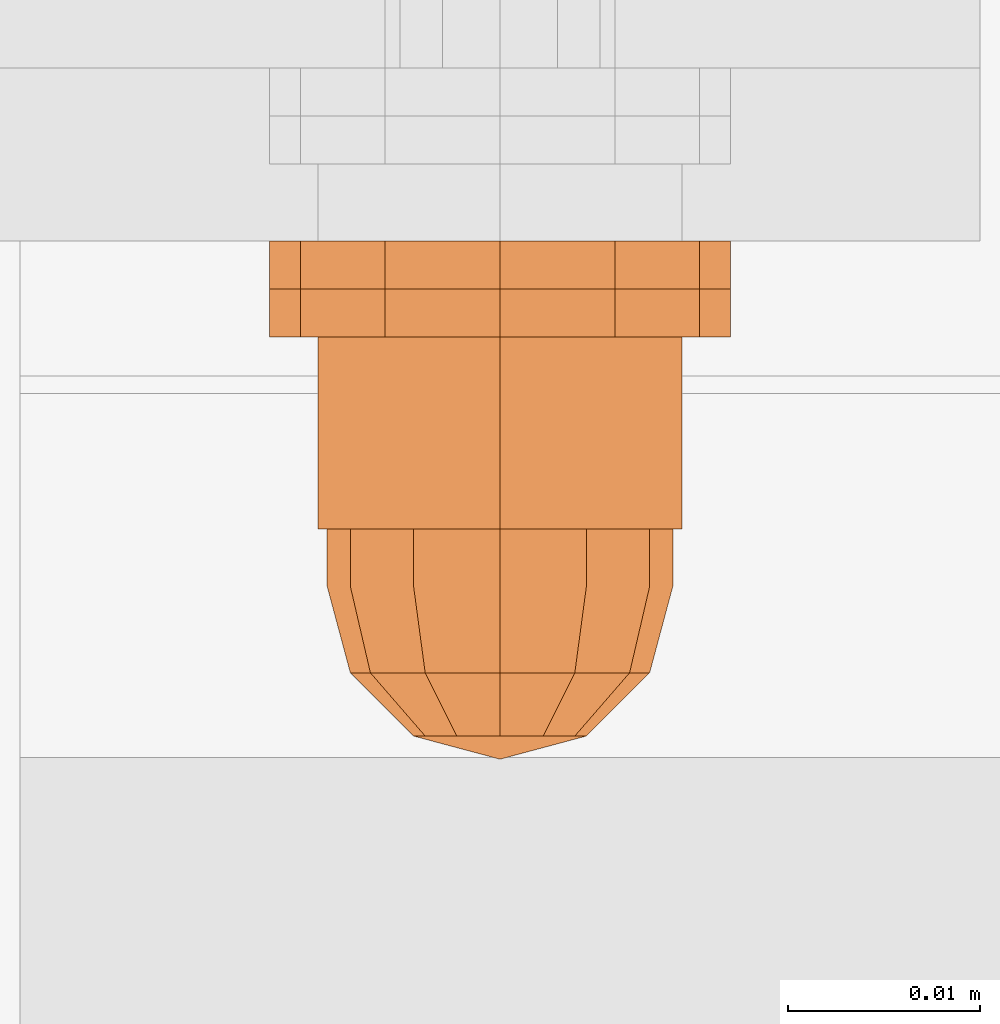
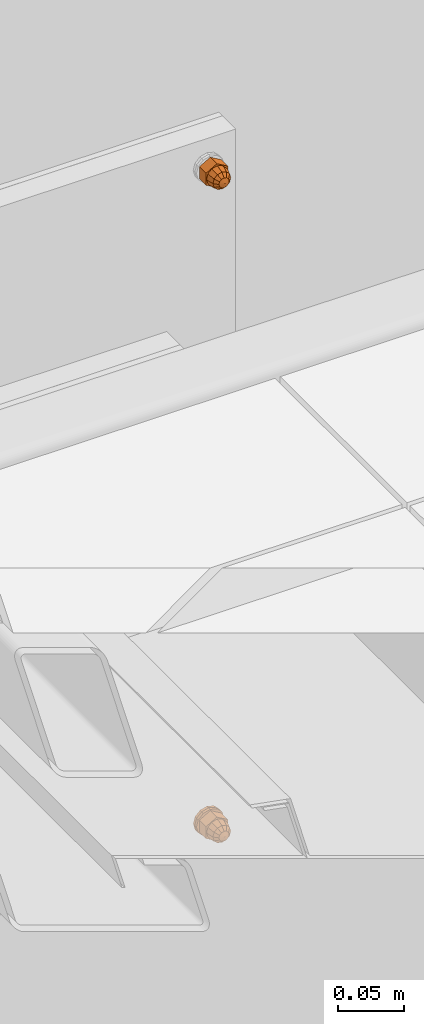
# One storey, part 143 of 162: 4 proxies.
"""IFC2X3 building model written with IfcOpenShell, lengths in millimetres."""

from ifc_helpers import new_model, entity, si_unit, converted_unit, origin_with_axes, place, context, project, spatial, faceted_brep, material, element, save


model = new_model("IFC2X3")

# Units and contexts
model_context = context("Model", 3, precision=1e-09, world=origin_with_axes())
ifc_project = project(units=[si_unit("LENGTHUNIT", "METRE", prefix="MILLI"), si_unit("AREAUNIT", "SQUARE_METRE"), si_unit("VOLUMEUNIT", "CUBIC_METRE"), converted_unit("PLANEANGLEUNIT", "DEGREE", entity("IfcPlaneAngleMeasure", 0.01745329), si_unit("PLANEANGLEUNIT", "RADIAN"), dimensions=[0, 0, 0, 0, 0, 0, 0])], contexts=[model_context])

# Site, building, storey
site_placement = place(None, origin_with_axes())
site = spatial("IfcSite", under=ifc_project, at=site_placement, Name="Hermannstra?e 1a, 60318 Frankfurt", CompositionType="ELEMENT")
building_placement = place(site_placement, origin_with_axes())
building = spatial("IfcBuilding", under=site, at=building_placement, Name="Struktur 1", CompositionType="ELEMENT")
storey_placement = place(building_placement, origin_with_axes())
storey = spatial("IfcBuildingStorey", under=building, at=storey_placement, Name="Default Storey", CompositionType="ELEMENT", Elevation=0.0)

# Proxies
ifc_material_1 = material(Name="A4")
proxy_1_placement = place(None, origin_with_axes())
element("IfcBuildingElementProxy", 1, at=proxy_1_placement, inside=storey, material=ifc_material_1, ObjectType="-", context=model_context, shape_type="Brep", body=[
    faceted_brep([(2934.310071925, 2705.610081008, 4080.0), (2934.310071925, 2695.610081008, 4080.0), (2933.506224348, 2695.610081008, 4083.0), (2933.506224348, 2705.610081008, 4083.0), (2931.310071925, 2695.610081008, 4085.196152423), (2931.310071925, 2705.610081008, 4085.196152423), (2933.506224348, 2705.610081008, 4077.0), (2933.506224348, 2695.610081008, 4077.0), (2937.789941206, 2705.610081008, 4074.526794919), (2928.310071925, 2705.610081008, 4069.053589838), (2918.830202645, 2705.610081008, 4074.526794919), (2918.830202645, 2705.610081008, 4085.473205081), (2928.310071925, 2705.610081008, 4090.946410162), (2937.789941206, 2705.610081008, 4085.473205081), (2931.310071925, 2705.610081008, 4074.803847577), (2928.310071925, 2705.610081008, 4086.0), (2925.310071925, 2705.610081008, 4085.196152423), (2923.113919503, 2705.610081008, 4083.0), (2922.310071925, 2705.610081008, 4080.0), (2923.113919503, 2705.610081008, 4077.0), (2925.310071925, 2705.610081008, 4074.803847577), (2928.310071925, 2705.610081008, 4074.0), (2928.310071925, 2695.610081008, 4069.053589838), (2937.789941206, 2695.610081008, 4074.526794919), (2937.789941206, 2695.610081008, 4085.473205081), (2928.310071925, 2695.610081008, 4090.946410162), (2918.830202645, 2695.610081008, 4085.473205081), (2918.830202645, 2695.610081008, 4074.526794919), (2931.310071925, 2695.610081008, 4074.803847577), (2928.310071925, 2695.610081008, 4074.0), (2925.310071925, 2695.610081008, 4074.803847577), (2923.113919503, 2695.610081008, 4077.0), (2922.310071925, 2695.610081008, 4080.0), (2923.113919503, 2695.610081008, 4083.0), (2925.310071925, 2695.610081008, 4085.196152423), (2928.310071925, 2695.610081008, 4086.0)], [[[0, 1, 2, 3]], [[3, 2, 4, 5]], [[1, 0, 6, 7]], [[8, 9, 10, 11, 12, 13], [14, 6, 0, 3, 5, 15, 16, 17, 18, 19, 20, 21]], [[22, 23, 24, 25, 26, 27], [1, 7, 28, 29, 30, 31, 32, 33, 34, 35, 4, 2]], [[7, 6, 14, 28]], [[24, 23, 8, 13]], [[5, 4, 35, 15]], [[13, 12, 25, 24]], [[28, 14, 21, 29]], [[23, 22, 9, 8]], [[15, 35, 34, 16]], [[12, 11, 26, 25]], [[29, 21, 20, 30]], [[22, 27, 10, 9]], [[16, 34, 33, 17]], [[27, 26, 11, 10]], [[30, 20, 19, 31]], [[17, 33, 32, 18]], [[31, 19, 18, 32]]]),
    faceted_brep([(2928.310071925, 2695.610081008, 4071.0), (2928.310071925, 2692.610081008, 4071.0), (2923.810071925, 2692.610081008, 4072.205771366), (2923.810071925, 2695.610081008, 4072.205771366), (2932.810071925, 2695.610081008, 4072.205771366), (2932.810071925, 2692.610081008, 4072.205771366), (2936.104300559, 2692.610081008, 4084.5), (2932.810071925, 2692.610081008, 4087.794228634), (2928.310071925, 2692.610081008, 4089.0), (2923.810071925, 2692.610081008, 4087.794228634), (2920.515843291, 2692.610081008, 4084.5), (2919.310071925, 2692.610081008, 4080.0), (2920.515843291, 2692.610081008, 4075.5), (2936.104300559, 2692.610081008, 4075.5), (2937.310071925, 2692.610081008, 4080.0), (2920.515843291, 2695.610081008, 4084.5), (2923.810071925, 2695.610081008, 4087.794228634), (2928.310071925, 2695.610081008, 4089.0), (2932.810071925, 2695.610081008, 4087.794228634), (2936.104300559, 2695.610081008, 4084.5), (2937.310071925, 2695.610081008, 4080.0), (2936.104300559, 2695.610081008, 4075.5), (2920.515843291, 2695.610081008, 4075.5), (2919.310071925, 2695.610081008, 4080.0)], [[[0, 1, 2, 3]], [[1, 0, 4, 5]], [[6, 7, 8, 9, 10, 11, 12, 2, 1, 5, 13, 14]], [[15, 16, 17, 18, 19, 20, 21, 4, 0, 3, 22, 23]], [[3, 2, 12, 22]], [[5, 4, 21, 13]], [[22, 12, 11, 23]], [[13, 21, 20, 14]], [[7, 18, 17, 8]], [[19, 6, 14, 20]], [[18, 7, 6, 19]], [[23, 11, 10, 15]], [[8, 17, 16, 9]], [[15, 10, 9, 16]]]),
    faceted_brep([(2936.104300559, 2692.610081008, 4075.5), (2935.060071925, 2688.110081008, 4076.102885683), (2932.207186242, 2688.110081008, 4073.25), (2932.810071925, 2692.610081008, 4072.205771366), (2920.515843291, 2692.610081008, 4084.5), (2923.810071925, 2692.610081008, 4087.794228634), (2928.310071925, 2692.610081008, 4089.0), (2932.810071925, 2692.610081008, 4087.794228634), (2936.104300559, 2692.610081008, 4084.5), (2937.310071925, 2692.610081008, 4080.0), (2928.310071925, 2692.610081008, 4071.0), (2923.810071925, 2692.610081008, 4072.205771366), (2920.515843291, 2692.610081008, 4075.5), (2919.310071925, 2692.610081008, 4080.0), (2928.310071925, 2688.110081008, 4072.205771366), (2936.104300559, 2688.110081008, 4080.0), (2932.810071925, 2684.815852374, 4080.0), (2932.207186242, 2684.815852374, 4077.75), (2924.412957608, 2688.110081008, 4073.25), (2930.560071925, 2684.815852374, 4076.102885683), (2935.060071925, 2688.110081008, 4083.897114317), (2932.207186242, 2684.815852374, 4082.25), (2928.310071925, 2684.815852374, 4075.5), (2928.310071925, 2683.610081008, 4080.0), (2932.207186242, 2688.110081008, 4086.75), (2930.560071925, 2684.815852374, 4083.897114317), (2928.310071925, 2688.110081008, 4087.794228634), (2921.560071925, 2688.110081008, 4076.102885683), (2926.060071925, 2684.815852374, 4076.102885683), (2928.310071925, 2684.815852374, 4084.5), (2924.412957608, 2688.110081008, 4086.75), (2926.060071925, 2684.815852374, 4083.897114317), (2920.515843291, 2688.110081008, 4080.0), (2924.412957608, 2684.815852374, 4077.75), (2921.560071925, 2688.110081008, 4083.897114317), (2924.412957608, 2684.815852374, 4082.25), (2923.810071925, 2684.815852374, 4080.0)], [[[0, 1, 2, 3]], [[4, 5, 6, 7, 8, 9, 0, 3, 10, 11, 12, 13]], [[3, 2, 14, 10]], [[15, 16, 17, 1]], [[1, 0, 9, 15]], [[10, 14, 18, 11]], [[1, 17, 19, 2]], [[16, 15, 20, 21]], [[2, 19, 22, 14]], [[23, 17, 16]], [[24, 25, 21, 20]], [[23, 16, 21]], [[24, 7, 6, 26]], [[20, 8, 7, 24]], [[15, 9, 8, 20]], [[11, 18, 27, 12]], [[14, 22, 28, 18]], [[23, 19, 17]], [[26, 29, 25, 24]], [[23, 21, 25]], [[23, 22, 19]], [[26, 6, 5, 30]], [[29, 26, 30, 31]], [[23, 25, 29]], [[12, 27, 32, 13]], [[18, 28, 33, 27]], [[23, 28, 22]], [[23, 29, 31]], [[23, 33, 28]], [[30, 5, 4, 34]], [[31, 30, 34, 35]], [[23, 31, 35]], [[13, 32, 34, 4]], [[27, 33, 36, 32]], [[23, 36, 33]], [[23, 35, 36]], [[35, 34, 32, 36]]]),
])
proxy_2_placement = place(None, origin_with_axes())
element("IfcBuildingElementProxy", 2, at=proxy_2_placement, inside=storey, material=ifc_material_1, ObjectType="-", context=model_context, shape_type="Brep", body=[
    faceted_brep([(2934.310071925, 2695.610081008, 3480.0), (2934.310071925, 2705.610081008, 3480.0), (2933.506224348, 2705.610081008, 3477.0), (2933.506224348, 2695.610081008, 3477.0), (2931.310071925, 2705.610081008, 3474.803847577), (2931.310071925, 2695.610081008, 3474.803847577), (2933.506224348, 2695.610081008, 3483.0), (2933.506224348, 2705.610081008, 3483.0), (2937.789941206, 2705.610081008, 3485.473205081), (2937.789941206, 2705.610081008, 3474.526794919), (2928.310071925, 2705.610081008, 3469.053589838), (2918.830202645, 2705.610081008, 3474.526794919), (2918.830202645, 2705.610081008, 3485.473205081), (2928.310071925, 2705.610081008, 3490.946410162), (2931.310071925, 2705.610081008, 3485.196152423), (2928.310071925, 2705.610081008, 3486.0), (2925.310071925, 2705.610081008, 3485.196152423), (2923.113919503, 2705.610081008, 3483.0), (2922.310071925, 2705.610081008, 3480.0), (2923.113919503, 2705.610081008, 3477.0), (2925.310071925, 2705.610081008, 3474.803847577), (2928.310071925, 2705.610081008, 3474.0), (2937.789941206, 2695.610081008, 3485.473205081), (2928.310071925, 2695.610081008, 3490.946410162), (2918.830202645, 2695.610081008, 3485.473205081), (2918.830202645, 2695.610081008, 3474.526794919), (2928.310071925, 2695.610081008, 3469.053589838), (2937.789941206, 2695.610081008, 3474.526794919), (2931.310071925, 2695.610081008, 3485.196152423), (2928.310071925, 2695.610081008, 3474.0), (2928.310071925, 2695.610081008, 3486.0), (2925.310071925, 2695.610081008, 3474.803847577), (2925.310071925, 2695.610081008, 3485.196152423), (2923.113919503, 2695.610081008, 3477.0), (2923.113919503, 2695.610081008, 3483.0), (2922.310071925, 2695.610081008, 3480.0)], [[[0, 1, 2, 3]], [[3, 2, 4, 5]], [[1, 0, 6, 7]], [[8, 9, 10, 11, 12, 13], [7, 14, 15, 16, 17, 18, 19, 20, 21, 4, 2, 1]], [[22, 23, 24, 25, 26, 27]], [[7, 6, 28, 14]], [[22, 27, 9, 8]], [[5, 4, 21, 29]], [[10, 9, 27, 26]], [[14, 28, 30, 15]], [[23, 22, 8, 13]], [[29, 21, 20, 31]], [[11, 10, 26, 25]], [[15, 30, 32, 16]], [[24, 23, 13, 12]], [[31, 20, 19, 33]], [[25, 24, 12, 11]], [[16, 32, 34, 17]], [[33, 19, 18, 35]], [[17, 34, 35, 18]]]),
    faceted_brep([(2928.310071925, 2692.610081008, 3489.0), (2928.310071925, 2695.610081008, 3489.0), (2923.810071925, 2695.610081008, 3487.794228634), (2923.810071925, 2692.610081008, 3487.794228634), (2932.810071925, 2692.610081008, 3487.794228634), (2932.810071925, 2695.610081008, 3487.794228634), (2932.810071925, 2692.610081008, 3472.205771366), (2936.104300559, 2692.610081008, 3475.5), (2937.310071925, 2692.610081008, 3480.0), (2936.104300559, 2692.610081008, 3484.5), (2920.515843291, 2692.610081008, 3484.5), (2919.310071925, 2692.610081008, 3480.0), (2920.515843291, 2692.610081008, 3475.5), (2923.810071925, 2692.610081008, 3472.205771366), (2928.310071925, 2692.610081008, 3471.0), (2923.810071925, 2695.610081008, 3472.205771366), (2920.515843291, 2695.610081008, 3475.5), (2919.310071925, 2695.610081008, 3480.0), (2920.515843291, 2695.610081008, 3484.5), (2936.104300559, 2695.610081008, 3484.5), (2937.310071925, 2695.610081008, 3480.0), (2936.104300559, 2695.610081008, 3475.5), (2932.810071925, 2695.610081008, 3472.205771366), (2928.310071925, 2695.610081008, 3471.0)], [[[0, 1, 2, 3]], [[1, 0, 4, 5]], [[6, 7, 8, 9, 4, 0, 3, 10, 11, 12, 13, 14]], [[15, 16, 17, 18, 2, 1, 5, 19, 20, 21, 22, 23]], [[3, 2, 18, 10]], [[5, 4, 9, 19]], [[10, 18, 17, 11]], [[19, 9, 8, 20]], [[22, 6, 14, 23]], [[7, 21, 20, 8]], [[6, 22, 21, 7]], [[11, 17, 16, 12]], [[23, 14, 13, 15]], [[12, 16, 15, 13]]]),
    faceted_brep([(2935.060071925, 2688.110081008, 3483.897114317), (2936.104300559, 2692.610081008, 3484.5), (2932.810071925, 2692.610081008, 3487.794228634), (2932.207186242, 2688.110081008, 3486.75), (2923.810071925, 2692.610081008, 3472.205771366), (2920.515843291, 2692.610081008, 3475.5), (2919.310071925, 2692.610081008, 3480.0), (2920.515843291, 2692.610081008, 3484.5), (2923.810071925, 2692.610081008, 3487.794228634), (2928.310071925, 2692.610081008, 3489.0), (2937.310071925, 2692.610081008, 3480.0), (2936.104300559, 2692.610081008, 3475.5), (2932.810071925, 2692.610081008, 3472.205771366), (2928.310071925, 2692.610081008, 3471.0), (2928.310071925, 2688.110081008, 3487.794228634), (2932.810071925, 2684.815852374, 3480.0), (2936.104300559, 2688.110081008, 3480.0), (2932.207186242, 2684.815852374, 3482.25), (2924.412957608, 2688.110081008, 3486.75), (2930.560071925, 2684.815852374, 3483.897114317), (2932.207186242, 2684.815852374, 3477.75), (2935.060071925, 2688.110081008, 3476.102885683), (2928.310071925, 2684.815852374, 3484.5), (2928.310071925, 2683.610081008, 3480.0), (2930.560071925, 2684.815852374, 3476.102885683), (2932.207186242, 2688.110081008, 3473.25), (2928.310071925, 2688.110081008, 3472.205771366), (2921.560071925, 2688.110081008, 3483.897114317), (2926.060071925, 2684.815852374, 3483.897114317), (2928.310071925, 2684.815852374, 3475.5), (2924.412957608, 2688.110081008, 3473.25), (2926.060071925, 2684.815852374, 3476.102885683), (2920.515843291, 2688.110081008, 3480.0), (2924.412957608, 2684.815852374, 3482.25), (2921.560071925, 2688.110081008, 3476.102885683), (2924.412957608, 2684.815852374, 3477.75), (2923.810071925, 2684.815852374, 3480.0)], [[[0, 1, 2, 3]], [[4, 5, 6, 7, 8, 9, 2, 1, 10, 11, 12, 13]], [[3, 2, 9, 14]], [[15, 16, 0, 17]], [[1, 0, 16, 10]], [[14, 9, 8, 18]], [[17, 0, 3, 19]], [[16, 15, 20, 21]], [[19, 3, 14, 22]], [[17, 23, 15]], [[24, 25, 21, 20]], [[15, 23, 20]], [[12, 25, 26, 13]], [[11, 21, 25, 12]], [[10, 16, 21, 11]], [[18, 8, 7, 27]], [[22, 14, 18, 28]], [[19, 23, 17]], [[29, 26, 25, 24]], [[20, 23, 24]], [[22, 23, 19]], [[13, 26, 30, 4]], [[26, 29, 31, 30]], [[24, 23, 29]], [[27, 7, 6, 32]], [[28, 18, 27, 33]], [[28, 23, 22]], [[29, 23, 31]], [[33, 23, 28]], [[4, 30, 34, 5]], [[30, 31, 35, 34]], [[31, 23, 35]], [[32, 6, 5, 34]], [[33, 27, 32, 36]], [[36, 23, 33]], [[35, 23, 36]], [[34, 35, 36, 32]]]),
])
proxy_3_placement = place(None, origin_with_axes())
element("IfcBuildingElementProxy", 3, at=proxy_3_placement, inside=storey, material=ifc_material_1, ObjectType="-", context=model_context, shape_type="Brep", body=[
    faceted_brep([(2917.91776708, 2708.110081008, 3486.0), (2917.91776708, 2705.610081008, 3486.0), (2922.310071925, 2705.610081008, 3490.392304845), (2922.310071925, 2708.110081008, 3490.392304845), (2916.310071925, 2705.610081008, 3480.0), (2917.91776708, 2705.610081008, 3474.0), (2922.310071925, 2705.610081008, 3469.607695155), (2928.310071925, 2705.610081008, 3468.0), (2934.310071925, 2705.610081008, 3469.607695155), (2938.702376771, 2705.610081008, 3474.0), (2940.310071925, 2705.610081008, 3480.0), (2938.702376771, 2705.610081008, 3486.0), (2934.310071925, 2705.610081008, 3490.392304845), (2928.310071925, 2705.610081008, 3492.0), (2928.310071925, 2705.610081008, 3486.5), (2931.560071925, 2705.610081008, 3485.629165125), (2933.93923705, 2705.610081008, 3483.25), (2934.810071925, 2705.610081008, 3480.0), (2933.93923705, 2705.610081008, 3476.75), (2931.560071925, 2705.610081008, 3474.370834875), (2928.310071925, 2705.610081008, 3473.5), (2925.060071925, 2705.610081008, 3474.370834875), (2922.680906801, 2705.610081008, 3476.75), (2921.810071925, 2705.610081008, 3480.0), (2922.680906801, 2705.610081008, 3483.25), (2925.060071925, 2705.610081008, 3485.629165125), (2922.680906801, 2708.110081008, 3483.25), (2921.810071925, 2708.110081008, 3480.0), (2922.680906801, 2708.110081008, 3476.75), (2925.060071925, 2708.110081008, 3474.370834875), (2928.310071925, 2708.110081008, 3473.5), (2931.560071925, 2708.110081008, 3474.370834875), (2933.93923705, 2708.110081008, 3476.75), (2934.810071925, 2708.110081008, 3480.0), (2933.93923705, 2708.110081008, 3483.25), (2931.560071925, 2708.110081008, 3485.629165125), (2928.310071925, 2708.110081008, 3486.5), (2925.060071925, 2708.110081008, 3485.629165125), (2916.310071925, 2708.110081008, 3480.0), (2928.310071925, 2708.110081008, 3492.0), (2917.91776708, 2708.110081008, 3474.0), (2934.310071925, 2708.110081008, 3490.392304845), (2922.310071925, 2708.110081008, 3469.607695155), (2938.702376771, 2708.110081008, 3486.0), (2928.310071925, 2708.110081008, 3468.0), (2940.310071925, 2708.110081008, 3480.0), (2934.310071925, 2708.110081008, 3469.607695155), (2938.702376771, 2708.110081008, 3474.0)], [[[0, 1, 2, 3]], [[2, 1, 4, 5, 6, 7, 8, 9, 10, 11, 12, 13], [14, 15, 16, 17, 18, 19, 20, 21, 22, 23, 24, 25]], [[26, 27, 28, 29, 30, 31, 32, 33, 34, 35, 36, 37]], [[24, 26, 37, 25]], [[1, 0, 38, 4]], [[26, 24, 23, 27]], [[25, 37, 36, 14]], [[3, 2, 13, 39]], [[4, 38, 40, 5]], [[27, 23, 22, 28]], [[14, 36, 35, 15]], [[39, 13, 12, 41]], [[5, 40, 42, 6]], [[28, 22, 21, 29]], [[15, 35, 34, 16]], [[41, 12, 11, 43]], [[33, 17, 16, 34]], [[6, 42, 44, 7]], [[29, 21, 20, 30]], [[32, 18, 17, 33]], [[43, 11, 10, 45]], [[19, 31, 30, 20]], [[18, 32, 31, 19]], [[7, 44, 46, 8]], [[45, 10, 9, 47]], [[8, 46, 47, 9]]]),
])
ifc_material_2 = material(Name="Kunststoff")
proxy_4_placement = place(None, origin_with_axes())
element("IfcBuildingElementProxy", 4, at=proxy_4_placement, inside=storey, material=ifc_material_2, ObjectType="-", context=model_context, shape_type="Brep", body=[
    faceted_brep([(2938.702376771, 2710.610081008, 3486.0), (2938.702376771, 2708.110081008, 3486.0), (2940.310071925, 2708.110081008, 3480.0), (2940.310071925, 2710.610081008, 3480.0), (2933.93923705, 2710.610081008, 3483.25), (2931.560071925, 2710.610081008, 3485.629165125), (2928.310071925, 2710.610081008, 3486.5), (2925.060071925, 2710.610081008, 3485.629165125), (2922.680906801, 2710.610081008, 3483.25), (2921.810071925, 2710.610081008, 3480.0), (2922.680906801, 2710.610081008, 3476.75), (2925.060071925, 2710.610081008, 3474.370834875), (2928.310071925, 2710.610081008, 3473.5), (2931.560071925, 2710.610081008, 3474.370834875), (2933.93923705, 2710.610081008, 3476.75), (2934.810071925, 2710.610081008, 3480.0), (2934.810071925, 2708.110081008, 3480.0), (2933.93923705, 2708.110081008, 3483.25), (2934.310071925, 2708.110081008, 3490.392304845), (2928.310071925, 2708.110081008, 3492.0), (2922.310071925, 2708.110081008, 3490.392304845), (2917.91776708, 2708.110081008, 3486.0), (2916.310071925, 2708.110081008, 3480.0), (2917.91776708, 2708.110081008, 3474.0), (2922.310071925, 2708.110081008, 3469.607695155), (2928.310071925, 2708.110081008, 3468.0), (2934.310071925, 2708.110081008, 3469.607695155), (2938.702376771, 2708.110081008, 3474.0), (2934.310071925, 2710.610081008, 3490.392304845), (2933.93923705, 2708.110081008, 3476.75), (2938.702376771, 2710.610081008, 3474.0), (2931.560071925, 2708.110081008, 3485.629165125), (2928.310071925, 2710.610081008, 3492.0), (2931.560071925, 2708.110081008, 3474.370834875), (2934.310071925, 2710.610081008, 3469.607695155), (2928.310071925, 2708.110081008, 3486.5), (2928.310071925, 2708.110081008, 3473.5), (2922.310071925, 2710.610081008, 3490.392304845), (2925.060071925, 2708.110081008, 3485.629165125), (2928.310071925, 2710.610081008, 3468.0), (2925.060071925, 2708.110081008, 3474.370834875), (2917.91776708, 2710.610081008, 3486.0), (2922.680906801, 2708.110081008, 3483.25), (2922.310071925, 2710.610081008, 3469.607695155), (2922.680906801, 2708.110081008, 3476.75), (2916.310071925, 2710.610081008, 3480.0), (2921.810071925, 2708.110081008, 3480.0), (2917.91776708, 2710.610081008, 3474.0)], [[[0, 1, 2, 3]], [[4, 5, 6, 7, 8, 9, 10, 11, 12, 13, 14, 15]], [[15, 16, 17, 4]], [[1, 18, 19, 20, 21, 22, 23, 24, 25, 26, 27, 2]], [[1, 0, 28, 18]], [[16, 15, 14, 29]], [[3, 2, 27, 30]], [[4, 17, 31, 5]], [[18, 28, 32, 19]], [[29, 14, 13, 33]], [[30, 27, 26, 34]], [[5, 31, 35, 6]], [[33, 13, 12, 36]], [[19, 32, 37, 20]], [[6, 35, 38, 7]], [[34, 26, 25, 39]], [[36, 12, 11, 40]], [[20, 37, 41, 21]], [[7, 38, 42, 8]], [[39, 25, 24, 43]], [[40, 11, 10, 44]], [[21, 41, 45, 22]], [[8, 42, 46, 9]], [[43, 24, 23, 47]], [[44, 10, 9, 46]], [[22, 45, 47, 23]]]),
])

save(model, "model.ifc")
